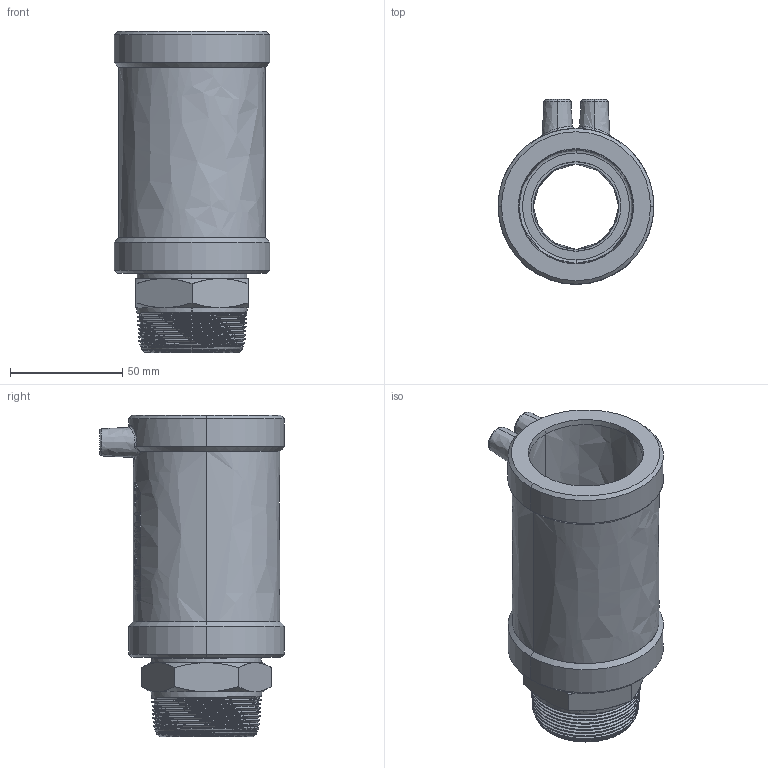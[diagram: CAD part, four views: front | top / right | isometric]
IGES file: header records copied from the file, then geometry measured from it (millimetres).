
Start section:  PTC IGES file: mun_d50_1_1-2_01.igs
Global section: file name: mun_d50_1_1-2_01.igs; native system: Pro/ENGINEER by Parametric Technology Corporation; preprocessor: 2011490; author: mtunjic; organization: Unknown; date: 20130823.151203; units: millimetre
Bounding box: 69.5 x 82.4 x 143.3 mm (x, y, z)
Surface area: 58231.5 mm2 (no closed solid volume)
Topology: 0 solids, 0 shells, 251 faces, 1274 edges, 1274 vertices
Faces by surface type: bspline 251
